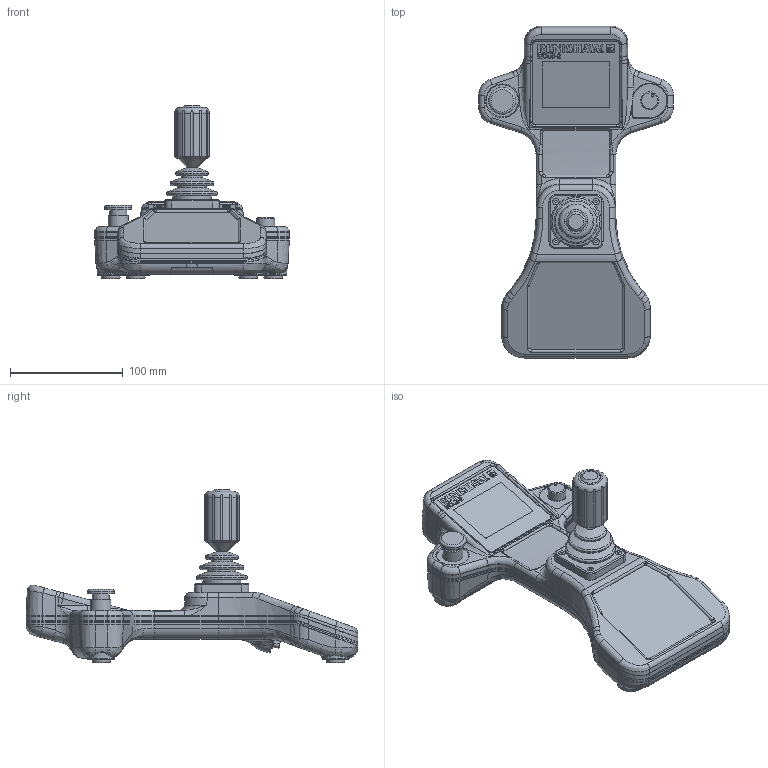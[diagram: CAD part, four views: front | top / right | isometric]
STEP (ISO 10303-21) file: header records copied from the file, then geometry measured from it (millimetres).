
FILE_DESCRIPTION(/* description */ (''),/* implementation_level */ '2;1');
FILE_NAME(/* name */ 'MCU5-2 Joystick Assembly.stp',/* time_stamp */ '2022-10-12T07:56:50+01:00',/* author */ (''),/* organization */ (''),/* preprocessor_version */ 'ST-DEVELOPER v16.7',/* originating_system */ 'SIEMENS PLM Software NX 1946',/* authorisation */ '');
FILE_SCHEMA (('AUTOMOTIVE_DESIGN { 1 0 10303 214 3 1 1 1 }'));
Length unit declared in the file: millimetre
Products named in the file (1): MCU5-2 Joystick Assembly_x_t
Bounding box: 173 x 295 x 154.3 mm (x, y, z)
Volume: 1189353.6 mm3; surface area: 111702.5 mm2
Topology: 1 solids, 1 shells, 866 faces, 2316 edges, 1529 vertices
Faces by surface type: cylinder 264, plane 261, bspline 181, torus 103, cone 45, extrusion 12
Full cylindrical faces by diameter (mm): 9 x1, 15 x1, 16 x2, 18 x1, 19 x1, 24 x1, 25 x1, 28.5 x1, 29 x2, 34 x1, 39 x1, 45 x1
Entity records: 35594 total; most frequent: CARTESIAN_POINT 14762, ORIENTED_EDGE 4494, DIRECTION 3641, EDGE_CURVE 2247, VERTEX_POINT 1512, AXIS2_PLACEMENT_3D 1432, EDGE_LOOP 995, ADVANCED_FACE 866
